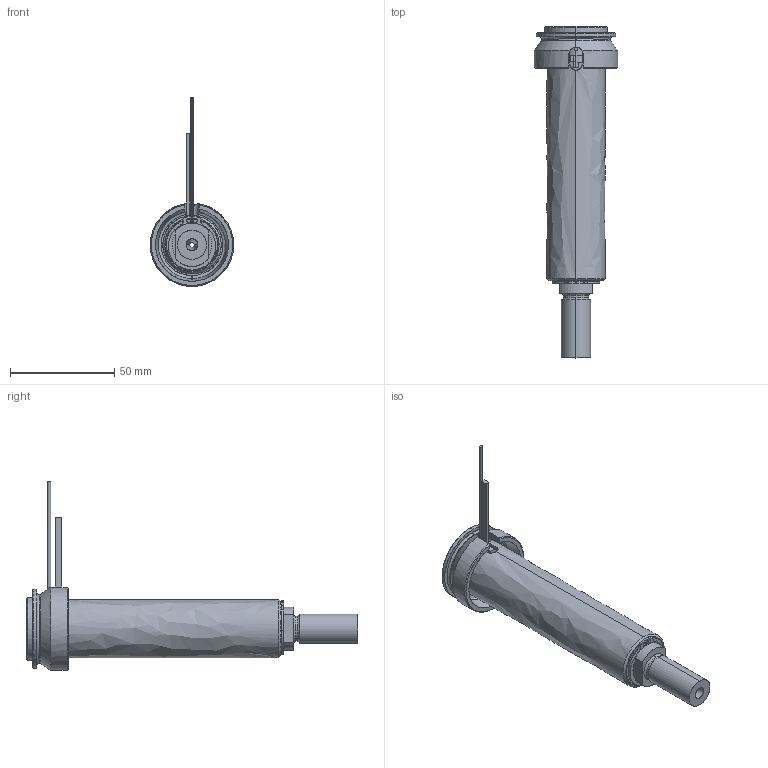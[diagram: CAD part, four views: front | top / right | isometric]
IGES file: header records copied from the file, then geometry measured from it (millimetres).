
Start section: SolidWorks IGES file using analytic representation for surfaces
Global section: file name: C:\Documents and Settings\ws-20\Desktop\TEMPORANEA\UGBE4003-M-A-P-3 [Ød-2.5 P-25 ØC-09].IGS; native system: SolidWorks 2012; preprocessor: SolidWorks 2012; author: ws-20; date: 120306.123608; units: millimetre
Bounding box: 40 x 159.25 x 90.65 mm (x, y, z)
Surface area: 42404.6 mm2 (no closed solid volume)
Topology: 0 solids, 0 shells, 105 faces, 1721 edges, 1721 vertices
Faces by surface type: revolution 60, bspline 45
